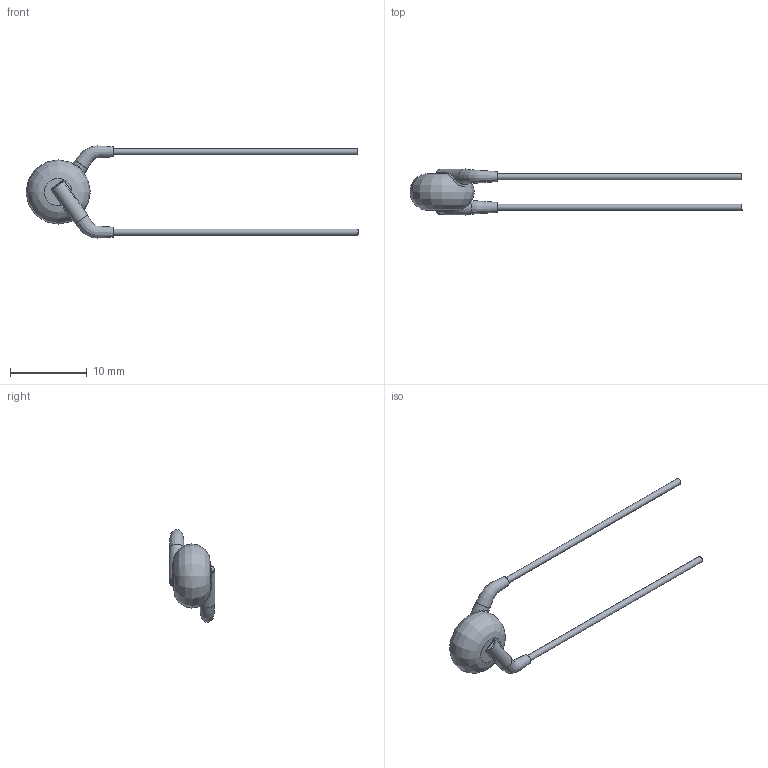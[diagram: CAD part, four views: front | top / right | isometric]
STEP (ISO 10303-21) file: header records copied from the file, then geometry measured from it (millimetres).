
FILE_DESCRIPTION(/* description */ (''),/* implementation_level */ '2;1');
FILE_NAME(/* name */ 'I:\Marketing\M6t1\3D-Models\Zchng-Werk-3\Upload for homepage\Ceramite\X7R\440LT22-R\440LT22-R.stp',/* time_stamp */ '2016-11-10T13:51:42+01:00',/* author */ ('sheinrich'),/* organization */ (''),/* preprocessor_version */ 'ST-DEVELOPER v16.1',/* originating_system */ 'Autodesk Inventor 2016',/* authorisation */ '');
FILE_SCHEMA (('AUTOMOTIVE_DESIGN { 1 0 10303 214 3 1 1 }'));
Length unit declared in the file: millimetre
Products named in the file (1): 440LT22-R
Bounding box: 43.4 x 6 x 12.03 mm (x, y, z)
Volume: 279.2 mm3; surface area: 410.8 mm2
Topology: 1 solids, 1 shells, 37 faces, 81 edges, 44 vertices
Faces by surface type: bspline 13, cylinder 10, plane 8, torus 6
Full cylindrical faces by diameter (mm): 0.81 x2, 2 x2
Entity records: 1962 total; most frequent: CARTESIAN_POINT 1198, ORIENTED_EDGE 142, DIRECTION 130, EDGE_CURVE 71, AXIS2_PLACEMENT_3D 59, EDGE_LOOP 43, VERTEX_POINT 42, STYLED_ITEM 38
